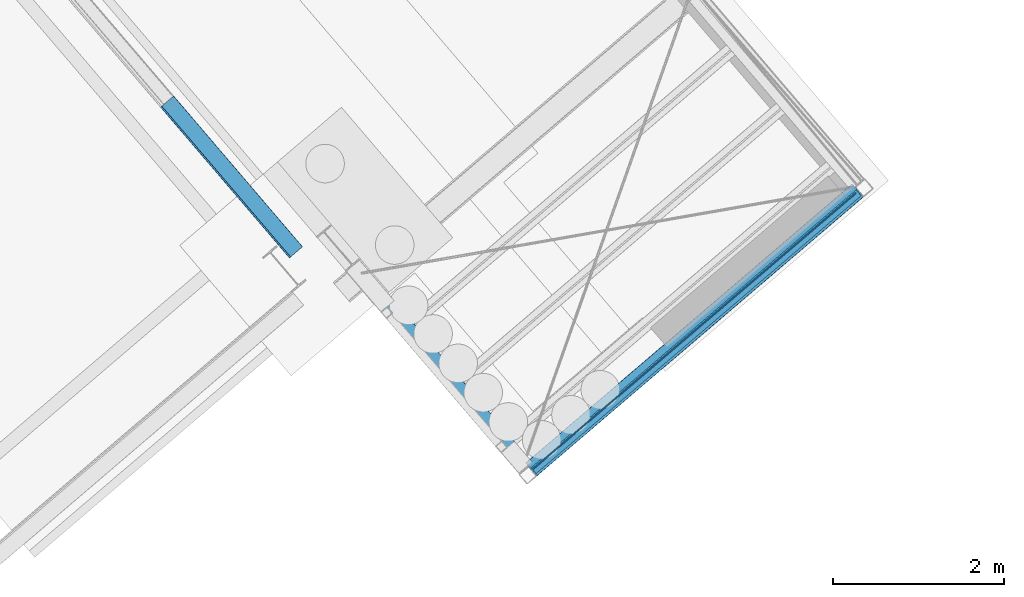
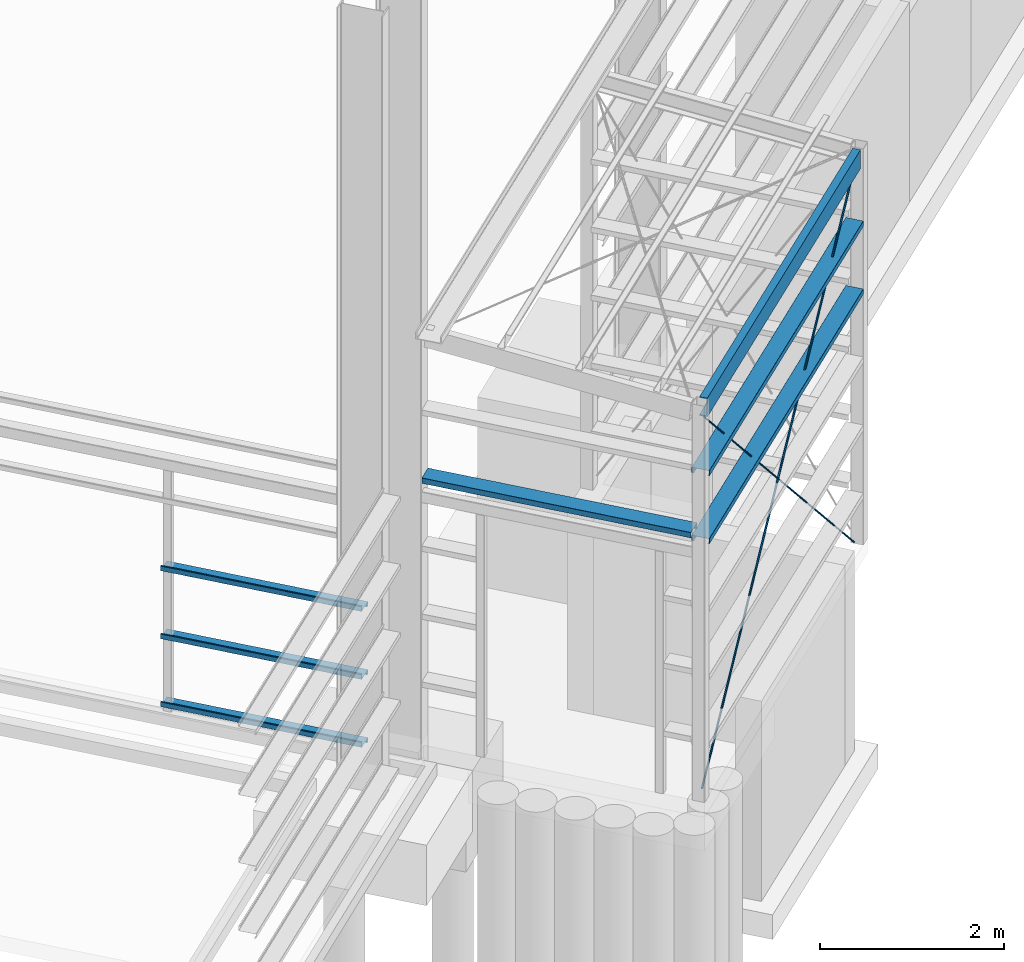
# One storey, part 20 of 41: 7 beams, 2 members, 1 element without a shape of its own.
"""IFC2X3 building model written with IfcOpenShell, lengths in millimetres."""

from ifc_helpers import new_model, entity, si_unit, converted_unit, derived_unit, direction, frame, frame_2d, origin, place, context, subcontext, project, spatial, polyline, circle_curve, parameter, trimmed, segment, composite_curve, circle, outline, extrude, source, transform, mapped, material, type_object, type_shapes, element, aggregate, save


model = new_model("IFC2X3")

# Units and contexts
model_context = context("Model", 3, precision=0.01, world=origin(), true_north=direction((6.123031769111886e-17, 1.0)))
body_context = subcontext(model_context, "Body", "Model", "MODEL_VIEW")
ifc_project = project(units=[si_unit("LENGTHUNIT", "METRE", prefix="MILLI"), si_unit("AREAUNIT", "SQUARE_METRE"), si_unit("VOLUMEUNIT", "CUBIC_METRE"), converted_unit("PLANEANGLEUNIT", "DEGREE", entity("IfcRatioMeasure", 0.017453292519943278), si_unit("PLANEANGLEUNIT", "RADIAN"), dimensions=[0, 0, 0, 0, 0, 0, 0]), si_unit("MASSUNIT", "GRAM", prefix="KILO"), derived_unit("MASSDENSITYUNIT", [(si_unit("MASSUNIT", "GRAM", prefix="KILO"), 1), (si_unit("LENGTHUNIT", "METRE"), -3)]), derived_unit("MOMENTOFINERTIAUNIT", [(si_unit("LENGTHUNIT", "METRE"), 4)]), si_unit("TIMEUNIT", "SECOND"), si_unit("FREQUENCYUNIT", "HERTZ"), si_unit("THERMODYNAMICTEMPERATUREUNIT", "DEGREE_CELSIUS"), derived_unit("THERMALTRANSMITTANCEUNIT", [(si_unit("MASSUNIT", "GRAM", prefix="KILO"), 1), (si_unit("THERMODYNAMICTEMPERATUREUNIT", "KELVIN"), -1), (si_unit("TIMEUNIT", "SECOND"), -3)]), derived_unit("VOLUMETRICFLOWRATEUNIT", [(si_unit("LENGTHUNIT", "METRE"), 3), (si_unit("TIMEUNIT", "SECOND"), -1)]), derived_unit("MASSFLOWRATEUNIT", [(si_unit("MASSUNIT", "GRAM", prefix="KILO"), 1), (si_unit("TIMEUNIT", "SECOND"), -1)]), derived_unit("ROTATIONALFREQUENCYUNIT", [(si_unit("TIMEUNIT", "SECOND"), -1)]), si_unit("ELECTRICCURRENTUNIT", "AMPERE"), si_unit("ELECTRICVOLTAGEUNIT", "VOLT"), si_unit("POWERUNIT", "WATT"), si_unit("FORCEUNIT", "NEWTON", prefix="KILO"), si_unit("ILLUMINANCEUNIT", "LUX"), si_unit("LUMINOUSFLUXUNIT", "LUMEN"), si_unit("LUMINOUSINTENSITYUNIT", "CANDELA"), derived_unit("USERDEFINED", [(si_unit("MASSUNIT", "GRAM", prefix="KILO"), -1), (si_unit("LENGTHUNIT", "METRE"), -2), (si_unit("TIMEUNIT", "SECOND"), 3), (si_unit("LUMINOUSFLUXUNIT", "LUMEN"), 1)]), derived_unit("SOUNDPOWERUNIT", [(si_unit("MASSUNIT", "GRAM", prefix="KILO"), 1), (si_unit("LENGTHUNIT", "METRE"), 2), (si_unit("TIMEUNIT", "SECOND"), -3)]), derived_unit("LINEARVELOCITYUNIT", [(si_unit("LENGTHUNIT", "METRE"), 1), (si_unit("TIMEUNIT", "SECOND"), -1)]), si_unit("PRESSUREUNIT", "PASCAL"), derived_unit("USERDEFINED", [(si_unit("LENGTHUNIT", "METRE"), -2), (si_unit("MASSUNIT", "GRAM", prefix="KILO"), 1), (si_unit("TIMEUNIT", "SECOND"), -2)]), derived_unit("LINEARFORCEUNIT", [(si_unit("MASSUNIT", "GRAM", prefix="KILO"), 1), (si_unit("LENGTHUNIT", "METRE"), 1), (si_unit("TIMEUNIT", "SECOND"), -2), (si_unit("LENGTHUNIT", "METRE"), -1)]), derived_unit("PLANARFORCEUNIT", [(si_unit("MASSUNIT", "GRAM", prefix="KILO"), 1), (si_unit("LENGTHUNIT", "METRE"), 1), (si_unit("TIMEUNIT", "SECOND"), -2), (si_unit("LENGTHUNIT", "METRE"), -2)])], contexts=[model_context])

# Site, building, storey
site_placement = place(None, frame((962.4174930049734, -6014.433753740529, 0.0), z_axis=(0.0, 0.0, 1.0), x_axis=(0.7601792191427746, 0.649713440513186, 0.0)))
site = spatial("IfcSite", under=ifc_project, at=site_placement, Name="Default", CompositionType="ELEMENT")
building_placement = place(site_placement, origin())
building = spatial("IfcBuilding", under=site, at=building_placement, CompositionType="ELEMENT")
storey_placement = place(building_placement, origin())
storey = spatial("IfcBuildingStorey", under=building, at=storey_placement, Name="Datum", CompositionType="ELEMENT", Elevation=0.0)

# Beams
ifc_material_1 = material(Name="Metal - Steel - 300 MPa")
beam_type_1 = type_object("IfcBeamType", Name="ADSK_UK_Light Gauge-Zeds-Purlin:Metsec-202Z14", PredefinedType="NOTDEFINED")
beam_1_placement = place(storey_placement, frame((154066.46020470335, -25607.42808212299, 1900.0), z_axis=(0.0, 0.0, 1.0), x_axis=(0.0, 1.0, 0.0)))
element("IfcBeam", 1, at=beam_1_placement, inside=storey, type_object=beam_type_1, material=ifc_material_1, Name="ADSK_UK_Light Gauge-Zeds-Purlin:Metsec-202Z14", ObjectType="ADSK_UK_Light Gauge-Zeds-Purlin:Metsec-202Z14", context=body_context, shape_type="SweptSolid", body=[
    extrude(outline(composite_curve([segment(polyline([(3.600000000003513, -101.20000000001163), (58.0, -101.20000000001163)]), True, "CONTINUOUS"), segment(trimmed(circle_curve(frame_2d((58.0, -98.40000000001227), x_axis=(0.0, -1.0)), 2.8000000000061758), [parameter(0.0)], [parameter(89.99999999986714)], True, "PARAMETER"), True, "CONTINUOUS"), segment(polyline([(60.80000000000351, -98.40000000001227), (60.799999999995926, -80.2000000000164)]), True, "CONTINUOUS"), segment(polyline([(60.80000000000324, -80.2000000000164), (59.3999999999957, -80.2000000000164)]), True, "CONTINUOUS"), segment(polyline([(59.40000000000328, -80.1999999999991), (59.3999999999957, -98.40000000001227)]), True, "CONTINUOUS"), segment(trimmed(circle_curve(frame_2d((58.0, -98.40000000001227), x_axis=(1.0, 0.0)), 1.3999999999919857), [parameter(269.9999999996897)], [parameter(0.0)], True, "PARAMETER"), False, "CONTINUOUS"), segment(polyline([(58.0, -99.80000000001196), (3.5999999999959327, -99.80000000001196)]), True, "CONTINUOUS"), segment(trimmed(circle_curve(frame_2d((3.599999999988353, -98.40000000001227), x_axis=(0.0, -1.0)), 1.3999999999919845), [parameter(269.9999999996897)], [parameter(0.0)], True, "PARAMETER"), False, "CONTINUOUS"), segment(polyline([(2.20000000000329, -98.39999999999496), (2.199999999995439, 98.0)]), True, "CONTINUOUS"), segment(trimmed(circle_curve(frame_2d((-0.600000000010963, 98.0), x_axis=(1.0, 0.0)), 2.8000000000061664), [parameter(0.0)], [parameter(89.99999999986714)], True, "PARAMETER"), True, "CONTINUOUS"), segment(polyline([(-0.5999999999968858, 100.79999999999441), (-60.0, 100.79999999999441)]), True, "CONTINUOUS"), segment(trimmed(circle_curve(frame_2d((-60.0, 98.0), x_axis=(0.0, 1.0)), 2.800000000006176), [parameter(0.0)], [parameter(89.99999999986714)], True, "PARAMETER"), True, "CONTINUOUS"), segment(polyline([(-62.79999999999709, 98.0), (-62.80000000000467, 81.79999999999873)]), True, "CONTINUOUS"), segment(polyline([(-62.79999999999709, 81.79999999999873), (-61.40000000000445, 81.79999999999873)]), True, "CONTINUOUS"), segment(polyline([(-61.399999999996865, 81.79999999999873), (-61.40000000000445, 98.0)]), True, "CONTINUOUS"), segment(trimmed(circle_curve(frame_2d((-60.0, 98.0), x_axis=(-1.0, 0.0)), 1.3999999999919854), [parameter(269.9999999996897)], [parameter(0.0)], True, "PARAMETER"), False, "CONTINUOUS"), segment(polyline([(-60.0, 99.39999999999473), (-0.6000000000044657, 99.39999999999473)]), True, "CONTINUOUS"), segment(trimmed(circle_curve(frame_2d((-0.5999999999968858, 98.0), x_axis=(0.0, 1.0)), 1.399999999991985), [parameter(269.9999999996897)], [parameter(0.0)], True, "PARAMETER"), False, "CONTINUOUS"), segment(polyline([(0.8000000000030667, 98.0), (0.7999999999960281, -98.40000000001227)]), True, "CONTINUOUS"), segment(trimmed(circle_curve(frame_2d((3.6000000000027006, -98.40000000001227), x_axis=(-1.0, 0.0)), 2.8000000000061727), [parameter(0.0)], [parameter(89.99999999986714)], True, "PARAMETER"), True, "CONTINUOUS")], self_intersect=False)), frame((43.0, -100.79999999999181, 0.6999999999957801), z_axis=(1.0, 0.0, 0.0), x_axis=(0.0, 0.0, -1.0)), (0.0, 0.0, 1.0), 2313.0000000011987),
])
beam_2_placement = place(storey_placement, frame((154066.46020470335, -25607.428082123, 1000.0), z_axis=(0.0, 0.0, 1.0), x_axis=(0.0, 1.0, 0.0)))
element("IfcBeam", 2, at=beam_2_placement, inside=storey, type_object=beam_type_1, material=ifc_material_1, Name="ADSK_UK_Light Gauge-Zeds-Purlin:Metsec-202Z14", ObjectType="ADSK_UK_Light Gauge-Zeds-Purlin:Metsec-202Z14", context=body_context, shape_type="SweptSolid", body=[
    extrude(outline(composite_curve([segment(polyline([(3.6000000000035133, -101.20000000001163), (58.0, -101.20000000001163)]), True, "CONTINUOUS"), segment(trimmed(circle_curve(frame_2d((58.0, -98.40000000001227), x_axis=(0.0, -1.0)), 2.800000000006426), [parameter(0.0)], [parameter(89.99999999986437)], True, "PARAMETER"), True, "CONTINUOUS"), segment(polyline([(60.80000000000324, -98.40000000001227), (60.799999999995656, -80.2000000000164)]), True, "CONTINUOUS"), segment(polyline([(60.80000000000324, -80.2000000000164), (59.3999999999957, -80.2000000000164)]), True, "CONTINUOUS"), segment(polyline([(59.400000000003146, -80.1999999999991), (59.3999999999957, -98.40000000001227)]), True, "CONTINUOUS"), segment(trimmed(circle_curve(frame_2d((58.0, -98.40000000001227), x_axis=(1.0, 0.0)), 1.399999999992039), [parameter(269.9999999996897)], [parameter(0.0)], True, "PARAMETER"), False, "CONTINUOUS"), segment(polyline([(58.0, -99.80000000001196), (3.5999999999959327, -99.80000000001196)]), True, "CONTINUOUS"), segment(trimmed(circle_curve(frame_2d((3.599999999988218, -98.40000000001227), x_axis=(0.0, -1.0)), 1.399999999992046), [parameter(269.9999999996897)], [parameter(0.0)], True, "PARAMETER"), False, "CONTINUOUS"), segment(polyline([(2.200000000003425, -98.39999999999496), (2.1999999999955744, 98.0)]), True, "CONTINUOUS"), segment(trimmed(circle_curve(frame_2d((-0.6000000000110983, 98.0), x_axis=(1.0, 0.0)), 2.8000000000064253), [parameter(0.0)], [parameter(89.99999999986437)], True, "PARAMETER"), True, "CONTINUOUS"), segment(polyline([(-0.5999999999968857, 100.79999999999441), (-60.0, 100.79999999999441)]), True, "CONTINUOUS"), segment(trimmed(circle_curve(frame_2d((-60.0, 98.0), x_axis=(0.0, 1.0)), 2.8000000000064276), [parameter(0.0)], [parameter(89.99999999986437)], True, "PARAMETER"), True, "CONTINUOUS"), segment(polyline([(-62.799999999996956, 98.0), (-62.8000000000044, 81.79999999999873)]), True, "CONTINUOUS"), segment(polyline([(-62.799999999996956, 81.79999999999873), (-61.40000000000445, 81.79999999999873)]), True, "CONTINUOUS"), segment(polyline([(-61.399999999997, 81.79999999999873), (-61.40000000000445, 98.0)]), True, "CONTINUOUS"), segment(trimmed(circle_curve(frame_2d((-60.0, 98.0), x_axis=(-1.0, 0.0)), 1.3999999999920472), [parameter(269.9999999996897)], [parameter(0.0)], True, "PARAMETER"), False, "CONTINUOUS"), segment(polyline([(-60.0, 99.39999999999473), (-0.6000000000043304, 99.39999999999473)]), True, "CONTINUOUS"), segment(trimmed(circle_curve(frame_2d((-0.5999999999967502, 98.0), x_axis=(0.0, 1.0)), 1.399999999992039), [parameter(269.9999999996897)], [parameter(0.0)], True, "PARAMETER"), False, "CONTINUOUS"), segment(polyline([(0.8000000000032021, 98.0), (0.7999999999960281, -98.40000000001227)]), True, "CONTINUOUS"), segment(trimmed(circle_curve(frame_2d((3.6000000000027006, -98.40000000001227), x_axis=(-1.0, 0.0)), 2.800000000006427), [parameter(0.0)], [parameter(89.99999999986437)], True, "PARAMETER"), True, "CONTINUOUS")], self_intersect=False)), frame((43.0, -100.79999999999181, 0.6999999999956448), z_axis=(1.0, 0.0, 0.0), x_axis=(0.0, 0.0, -1.0)), (0.0, 0.0, 1.0), 2313.0000000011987),
])
beam_3_placement = place(storey_placement, frame((154066.46020470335, -25607.428082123, 100.0), z_axis=(0.0, 0.0, 1.0), x_axis=(0.0, 1.0, 0.0)))
element("IfcBeam", 3, at=beam_3_placement, inside=storey, type_object=beam_type_1, material=ifc_material_1, Name="ADSK_UK_Light Gauge-Zeds-Purlin:Metsec-202Z14", ObjectType="ADSK_UK_Light Gauge-Zeds-Purlin:Metsec-202Z14", context=body_context, shape_type="SweptSolid", body=[
    extrude(outline(composite_curve([segment(polyline([(3.60000000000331, -101.20000000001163), (58.0, -101.20000000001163)]), True, "CONTINUOUS"), segment(trimmed(circle_curve(frame_2d((58.0, -98.40000000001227), x_axis=(0.0, -1.0)), 2.8000000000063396), [parameter(0.0)], [parameter(89.99999999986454)], True, "PARAMETER"), True, "CONTINUOUS"), segment(polyline([(60.80000000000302, -98.40000000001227), (60.79999999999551, -80.2000000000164)]), True, "CONTINUOUS"), segment(polyline([(60.80000000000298, -80.2000000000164), (59.3999999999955, -80.2000000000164)]), True, "CONTINUOUS"), segment(polyline([(59.40000000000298, -80.1999999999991), (59.399999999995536, -98.40000000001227)]), True, "CONTINUOUS"), segment(trimmed(circle_curve(frame_2d((58.0, -98.40000000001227), x_axis=(1.0, 0.0)), 1.3999999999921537), [parameter(269.9999999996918)], [parameter(0.0)], True, "PARAMETER"), False, "CONTINUOUS"), segment(polyline([(58.0, -99.80000000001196), (3.599999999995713, -99.80000000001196)]), True, "CONTINUOUS"), segment(trimmed(circle_curve(frame_2d((3.5999999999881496, -98.40000000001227), x_axis=(0.0, -1.0)), 1.3999999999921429), [parameter(269.99999999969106)], [parameter(0.0)], True, "PARAMETER"), False, "CONTINUOUS"), segment(polyline([(2.2000000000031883, -98.39999999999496), (2.1999999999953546, 98.0)]), True, "CONTINUOUS"), segment(trimmed(circle_curve(frame_2d((-0.6000000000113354, 98.0), x_axis=(1.0, 0.0)), 2.8000000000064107), [parameter(0.0)], [parameter(89.99999999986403)], True, "PARAMETER"), True, "CONTINUOUS"), segment(polyline([(-0.5999999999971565, 100.79999999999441), (-60.0, 100.79999999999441)]), True, "CONTINUOUS"), segment(trimmed(circle_curve(frame_2d((-60.0, 98.0), x_axis=(0.0, 1.0)), 2.80000000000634), [parameter(0.0)], [parameter(89.99999999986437)], True, "PARAMETER"), True, "CONTINUOUS"), segment(polyline([(-62.79999999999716, 98.0), (-62.80000000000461, 81.79999999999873)]), True, "CONTINUOUS"), segment(polyline([(-62.799999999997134, 81.79999999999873), (-61.400000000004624, 81.79999999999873)]), True, "CONTINUOUS"), segment(polyline([(-61.39999999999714, 81.79999999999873), (-61.40000000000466, 98.0)]), True, "CONTINUOUS"), segment(trimmed(circle_curve(frame_2d((-60.0, 98.0), x_axis=(-1.0, 0.0)), 1.3999999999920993), [parameter(269.9999999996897)], [parameter(0.0)], True, "PARAMETER"), False, "CONTINUOUS"), segment(polyline([(-60.0, 99.39999999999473), (-0.6000000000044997, 99.39999999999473)]), True, "CONTINUOUS"), segment(trimmed(circle_curve(frame_2d((-0.5999999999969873, 98.0), x_axis=(0.0, 1.0)), 1.399999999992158), [parameter(269.9999999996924)], [parameter(0.0)], True, "PARAMETER"), False, "CONTINUOUS"), segment(polyline([(0.8000000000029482, 98.0), (0.799999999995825, -98.40000000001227)]), True, "CONTINUOUS"), segment(trimmed(circle_curve(frame_2d((3.600000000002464, -98.40000000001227), x_axis=(-1.0, 0.0)), 2.800000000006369), [parameter(0.0)], [parameter(89.99999999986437)], True, "PARAMETER"), True, "CONTINUOUS")], self_intersect=False)), frame((43.0, -100.79999999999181, 0.6999999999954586), z_axis=(1.0, 0.0, 0.0), x_axis=(0.0, 0.0, -1.0)), (0.0, 0.0, 1.0), 2313.0000000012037),
])
ifc_material_2 = material(Name="Metal - Light Gauge Painted")
beam_type_2 = type_object("IfcBeamType", Name="ADSK_AU_PFC-Parallel Flange Channels (AS 3679_1):250PFC", PredefinedType="NOTDEFINED")
beam_4_placement = place(building_placement, frame((154533.1729934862, -29316.47968559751, 5240.0)))
element("IfcBeam", 4, at=beam_4_placement, inside=storey, type_object=beam_type_2, material=ifc_material_2, Name="ADSK_AU_PFC-Parallel Flange Channels (AS 3679_1):250PFC", ObjectType="ADSK_AU_PFC-Parallel Flange Channels (AS 3679_1):250PFC", context=body_context, shape_type="SweptSolid", body=[
    extrude(outline(composite_curve([segment(polyline([(-125.0, -41.599999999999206), (125.0, -41.599999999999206)]), True, "CONTINUOUS"), segment(polyline([(125.0, -41.59999999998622), (125.0, 48.399999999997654)]), True, "CONTINUOUS"), segment(polyline([(125.0, 48.40000000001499), (110.0, 48.399999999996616)]), True, "CONTINUOUS"), segment(polyline([(110.0, 48.400000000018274), (110.0, -21.60000000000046)]), True, "CONTINUOUS"), segment(trimmed(circle_curve(frame_2d((98.0, -21.59999999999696), x_axis=(1.0, 0.0)), 12.000000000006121), [parameter(270.00000000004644)], [parameter(0.0)], True, "PARAMETER"), False, "CONTINUOUS"), segment(polyline([(98.0, -33.59999999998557), (-98.0, -33.60000000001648)]), True, "CONTINUOUS"), segment(trimmed(circle_curve(frame_2d((-98.0, -21.600000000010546), x_axis=(0.0, -1.0)), 12.000000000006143), [parameter(270.00000000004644)], [parameter(0.0)], True, "PARAMETER"), False, "CONTINUOUS"), segment(polyline([(-110.0, -21.600000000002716), (-110.0, 48.39999999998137)]), True, "CONTINUOUS"), segment(polyline([(-110.0, 48.399999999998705), (-125.0, 48.39999999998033)]), True, "CONTINUOUS"), segment(polyline([(-125.0, 48.40000000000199), (-125.0, -41.60000000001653)]), True, "CONTINUOUS")], self_intersect=False)), frame((87.700000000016, 13.0, -125.0), z_axis=(1.0, 0.0, 0.0), x_axis=(0.0, 0.0, -1.0)), (0.0, 0.0, 1.0), 4985.300000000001),
])

# Members
ifc_material_3 = material(Name="<Unnamed>")
member_type_1 = type_object("IfcMemberType", Name="ADSK_AU_Round Bars (AS 3679_1):20ROD", PredefinedType="BRACE", material=ifc_material_3)
shared_shape_1 = source(origin(), body_context, "Body", "SweptSolid", [
    extrude(circle(Radius=10.000000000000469, at=frame_2d((1.5573836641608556e-26, 1.67417529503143e-14), x_axis=(1.0, 0.0))), frame((-3474.2297002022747, 0.0, 0.0), z_axis=(1.0, 0.0, 0.0), x_axis=(0.0, -1.0, 0.0)), (0.0, 0.0, 1.0), 6892.769096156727),
])
type_shapes(member_type_1, [shared_shape_1])
member_1_placement = place(storey_placement, frame((157159.23638238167, -29280.42808212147, 2467.323020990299), z_axis=(0.7071067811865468, 0.0, 0.7071067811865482), x_axis=(0.7071067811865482, 0.0, -0.7071067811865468)))
element("IfcMember", 5, at=member_1_placement, inside=storey, type_object=member_type_1, material=ifc_material_3, Name="ADSK_AU_Round Bars (AS 3679_1):20ROD", ObjectType="ADSK_AU_Round Bars (AS 3679_1):20ROD", context=body_context, shape_type="MappedRepresentation", body=[
    mapped(shared_shape_1, transform((0.0, 0.0, 0.0), scale=1.0)),
])
member_type_2 = type_object("IfcMemberType", Name="ADSK_AU_Round Bars (AS 3679_1):20ROD", PredefinedType="BRACE", material=ifc_material_3)
shared_shape_2 = source(origin(), body_context, "Body", "SweptSolid", [
    extrude(circle(Radius=10.000000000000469, at=frame_2d((9.640466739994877e-26, 1.9842909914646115e-14), x_axis=(1.0, 0.0))), frame((-3474.2297002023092, 0.0, 0.0), z_axis=(1.0, 0.0, 0.0), x_axis=(0.0, -1.0, 0.0)), (0.0, 0.0, 1.0), 6892.769096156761),
])
type_shapes(member_type_2, [shared_shape_2])
member_2_placement = place(storey_placement, frame((157046.38081292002, -29280.42808212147, 2467.323020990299), z_axis=(-0.7071067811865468, 0.0, 0.7071067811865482), x_axis=(-0.7071067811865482, 0.0, -0.7071067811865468)))
element("IfcMember", 6, at=member_2_placement, inside=storey, type_object=member_type_2, material=ifc_material_3, Name="ADSK_AU_Round Bars (AS 3679_1):20ROD", ObjectType="ADSK_AU_Round Bars (AS 3679_1):20ROD", context=body_context, shape_type="MappedRepresentation", body=[
    mapped(shared_shape_2, transform((0.0, 0.0, 0.0), scale=1.0)),
])

# Assembly, beams
assembly_placement = place(building_placement, origin())
assembly = element("IfcElementAssembly", 7, at=assembly_placement, inside=storey, Name="Structural Beam System:Structural Beam System 1", ObjectType="Structural Beam System:Structural Beam System 1", AssemblyPlace="NOTDEFINED", PredefinedType="BEAM_GRID")
ifc_material_4 = material(Name="Metal - Light Gauge")
beam_type_3 = type_object("IfcBeamType", Name="ADSK_AUS_Light Gauge-Joists:C20019", PredefinedType="NOTDEFINED")
beam_5_placement = place(building_placement, frame((159618.96020470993, -29170.42808212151, 4295.0), z_axis=(0.0, 0.0, 1.0), x_axis=(-1.0, 0.0, 0.0)))
beam_5 = element("IfcBeam", 8, at=beam_5_placement, type_object=beam_type_3, material=ifc_material_4, Name="ADSK_AUS_Light Gauge-Joists:C20019", ObjectType="ADSK_AUS_Light Gauge-Joists:C20019", context=body_context, shape_type="SweptSolid", body=[
    extrude(outline(composite_curve([segment(polyline([(-40.55184993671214, -101.49999999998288), (26.331849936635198, -101.49999999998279)]), True, "CONTINUOUS"), segment(trimmed(circle_curve(frame_2d((26.33184993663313, -98.4418499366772), x_axis=(0.0, -1.0)), 3.058150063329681), [parameter(0.0)], [parameter(89.99999999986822)], True, "PARAMETER"), True, "CONTINUOUS"), segment(polyline([(29.389999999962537, -98.44184993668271), (29.389999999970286, -78.49999999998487)]), True, "CONTINUOUS"), segment(polyline([(29.389999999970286, -78.50000000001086), (27.48999999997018, -78.49999999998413)]), True, "CONTINUOUS"), segment(polyline([(27.48999999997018, -78.50000000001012), (27.489999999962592, -98.02934993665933)]), True, "CONTINUOUS"), segment(trimmed(circle_curve(frame_2d((25.91934993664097, -98.02934993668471), x_axis=(1.0, 0.0)), 1.5706500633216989), [parameter(269.99999999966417)], [parameter(0.0)], True, "PARAMETER"), False, "CONTINUOUS"), segment(polyline([(25.919349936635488, -99.60000000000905), (-40.13934993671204, -99.59999999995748)]), True, "CONTINUOUS"), segment(trimmed(circle_curve(frame_2d((-40.13934993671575, -98.02934993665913), x_axis=(0.0, -1.0)), 1.570650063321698), [parameter(269.99999999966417)], [parameter(0.0)], True, "PARAMETER"), False, "CONTINUOUS"), segment(polyline([(-41.710000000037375, -98.02934993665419), (-41.70999999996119, 98.02934993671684)]), True, "CONTINUOUS"), segment(trimmed(circle_curve(frame_2d((-40.13934993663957, 98.02934993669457), x_axis=(-1.0, 0.0)), 1.5706500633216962), [parameter(269.99999999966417)], [parameter(0.0)], True, "PARAMETER"), False, "CONTINUOUS"), segment(polyline([(-40.13934993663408, 99.60000000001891), (25.919349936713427, 99.6000000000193)]), True, "CONTINUOUS"), segment(trimmed(circle_curve(frame_2d((25.919349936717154, 98.02934993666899), x_axis=(0.0, 1.0)), 1.570650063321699), [parameter(269.99999999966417)], [parameter(0.0)], True, "PARAMETER"), False, "CONTINUOUS"), segment(polyline([(27.490000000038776, 98.02934993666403), (27.490000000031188, 78.50000000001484)]), True, "CONTINUOUS"), segment(polyline([(27.490000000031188, 78.49999999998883), (29.390000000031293, 78.5000000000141)]), True, "CONTINUOUS"), segment(polyline([(29.390000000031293, 78.49999999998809), (29.39000000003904, 98.44184993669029)]), True, "CONTINUOUS"), segment(trimmed(circle_curve(frame_2d((26.331849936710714, 98.44184993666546), x_axis=(1.0, 0.0)), 3.058150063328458), [parameter(0.0)], [parameter(89.99999999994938)], True, "PARAMETER"), True, "CONTINUOUS"), segment(polyline([(26.331849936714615, 101.49999999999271), (-40.551849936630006, 101.50000000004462)]), True, "CONTINUOUS"), segment(trimmed(circle_curve(frame_2d((-40.55184993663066, 98.44184993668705), x_axis=(0.0, 1.0)), 3.0581500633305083), [parameter(0.0)], [parameter(89.99999999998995)], True, "PARAMETER"), True, "CONTINUOUS"), segment(polyline([(-43.60999999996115, 98.44184993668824), (-43.610000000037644, -98.44184993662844)]), True, "CONTINUOUS"), segment(trimmed(circle_curve(frame_2d((-40.55184993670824, -98.4418499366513), x_axis=(-1.0, 0.0)), 3.058150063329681), [parameter(0.0)], [parameter(89.99999999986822)], True, "PARAMETER"), True, "CONTINUOUS")], self_intersect=False)), frame((0.42499999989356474, 101.49999999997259, -43.609999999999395), z_axis=(1.0, 0.0, 0.0), x_axis=(0.0, 0.0, -1.0)), (0.0, 0.0, 1.0), 5010.0000000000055),
])
beam_6_placement = place(building_placement, frame((159618.96020470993, -29170.42808212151, 3395.0), z_axis=(0.0, 0.0, 1.0), x_axis=(-1.0, 0.0, 0.0)))
beam_6 = element("IfcBeam", 9, at=beam_6_placement, type_object=beam_type_3, material=ifc_material_4, Name="ADSK_AUS_Light Gauge-Joists:C20019", ObjectType="ADSK_AUS_Light Gauge-Joists:C20019", context=body_context, shape_type="SweptSolid", body=[
    extrude(outline(composite_curve([segment(polyline([(-40.55184993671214, -101.49999999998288), (26.331849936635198, -101.49999999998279)]), True, "CONTINUOUS"), segment(trimmed(circle_curve(frame_2d((26.33184993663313, -98.4418499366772), x_axis=(0.0, -1.0)), 3.058150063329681), [parameter(0.0)], [parameter(89.99999999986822)], True, "PARAMETER"), True, "CONTINUOUS"), segment(polyline([(29.389999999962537, -98.44184993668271), (29.389999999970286, -78.49999999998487)]), True, "CONTINUOUS"), segment(polyline([(29.389999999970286, -78.50000000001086), (27.48999999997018, -78.49999999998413)]), True, "CONTINUOUS"), segment(polyline([(27.48999999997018, -78.50000000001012), (27.489999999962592, -98.02934993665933)]), True, "CONTINUOUS"), segment(trimmed(circle_curve(frame_2d((25.91934993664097, -98.02934993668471), x_axis=(1.0, 0.0)), 1.5706500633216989), [parameter(269.99999999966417)], [parameter(0.0)], True, "PARAMETER"), False, "CONTINUOUS"), segment(polyline([(25.919349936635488, -99.60000000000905), (-40.13934993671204, -99.59999999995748)]), True, "CONTINUOUS"), segment(trimmed(circle_curve(frame_2d((-40.13934993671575, -98.02934993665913), x_axis=(0.0, -1.0)), 1.570650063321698), [parameter(269.99999999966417)], [parameter(0.0)], True, "PARAMETER"), False, "CONTINUOUS"), segment(polyline([(-41.710000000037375, -98.02934993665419), (-41.70999999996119, 98.02934993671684)]), True, "CONTINUOUS"), segment(trimmed(circle_curve(frame_2d((-40.13934993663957, 98.02934993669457), x_axis=(-1.0, 0.0)), 1.5706500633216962), [parameter(269.99999999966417)], [parameter(0.0)], True, "PARAMETER"), False, "CONTINUOUS"), segment(polyline([(-40.13934993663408, 99.60000000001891), (25.919349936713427, 99.6000000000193)]), True, "CONTINUOUS"), segment(trimmed(circle_curve(frame_2d((25.919349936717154, 98.02934993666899), x_axis=(0.0, 1.0)), 1.570650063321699), [parameter(269.99999999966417)], [parameter(0.0)], True, "PARAMETER"), False, "CONTINUOUS"), segment(polyline([(27.490000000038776, 98.02934993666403), (27.490000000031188, 78.50000000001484)]), True, "CONTINUOUS"), segment(polyline([(27.490000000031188, 78.49999999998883), (29.390000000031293, 78.5000000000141)]), True, "CONTINUOUS"), segment(polyline([(29.390000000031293, 78.49999999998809), (29.39000000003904, 98.44184993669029)]), True, "CONTINUOUS"), segment(trimmed(circle_curve(frame_2d((26.331849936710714, 98.44184993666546), x_axis=(1.0, 0.0)), 3.058150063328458), [parameter(0.0)], [parameter(89.99999999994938)], True, "PARAMETER"), True, "CONTINUOUS"), segment(polyline([(26.331849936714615, 101.49999999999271), (-40.551849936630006, 101.50000000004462)]), True, "CONTINUOUS"), segment(trimmed(circle_curve(frame_2d((-40.55184993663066, 98.44184993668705), x_axis=(0.0, 1.0)), 3.0581500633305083), [parameter(0.0)], [parameter(89.99999999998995)], True, "PARAMETER"), True, "CONTINUOUS"), segment(polyline([(-43.60999999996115, 98.44184993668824), (-43.610000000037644, -98.44184993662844)]), True, "CONTINUOUS"), segment(trimmed(circle_curve(frame_2d((-40.55184993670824, -98.4418499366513), x_axis=(-1.0, 0.0)), 3.058150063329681), [parameter(0.0)], [parameter(89.99999999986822)], True, "PARAMETER"), True, "CONTINUOUS")], self_intersect=False)), frame((0.42499999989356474, 101.49999999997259, -43.609999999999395), z_axis=(1.0, 0.0, 0.0), x_axis=(0.0, 0.0, -1.0)), (0.0, 0.0, 1.0), 5010.0000000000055),
])
aggregate(assembly, [beam_5, beam_6])

# Beam
beam_7_placement = place(building_placement, frame((154469.96020470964, -26123.428082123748, 3529.929873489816), z_axis=(0.0, 0.0, 1.0), x_axis=(0.0, -1.0, 0.0)))
element("IfcBeam", 10, at=beam_7_placement, inside=storey, type_object=beam_type_3, material=ifc_material_4, Name="ADSK_AUS_Light Gauge-Joists:C20019", ObjectType="ADSK_AUS_Light Gauge-Joists:C20019", context=body_context, shape_type="SweptSolid", body=[
    extrude(outline(composite_curve([segment(polyline([(-40.55184993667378, -101.50000000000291), (26.33184993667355, -101.50000000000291)]), True, "CONTINUOUS"), segment(trimmed(circle_curve(frame_2d((26.331849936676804, -98.44184993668), x_axis=(0.0, -1.0)), 3.058150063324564), [parameter(0.0)], [parameter(90.00000000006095)], True, "PARAMETER"), True, "CONTINUOUS"), segment(polyline([(29.389999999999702, -98.44184993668), (29.389999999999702, -78.50000000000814)]), True, "CONTINUOUS"), segment(polyline([(29.389999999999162, -78.49999999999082), (27.489999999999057, -78.49999999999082)]), True, "CONTINUOUS"), segment(polyline([(27.489999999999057, -78.49999999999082), (27.489999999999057, -98.02934993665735)]), True, "CONTINUOUS"), segment(trimmed(circle_curve(frame_2d((25.919349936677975, -98.02934993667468), x_axis=(1.0, 0.0)), 1.5706500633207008), [parameter(269.99999999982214)], [parameter(0.0)], True, "PARAMETER"), False, "CONTINUOUS"), segment(polyline([(25.9193499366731, -99.59999999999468), (-40.139349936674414, -99.59999999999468)]), True, "CONTINUOUS"), segment(trimmed(circle_curve(frame_2d((-40.13934993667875, -98.02934993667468), x_axis=(0.0, -1.0)), 1.5706500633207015), [parameter(269.99999999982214)], [parameter(0.0)], True, "PARAMETER"), False, "CONTINUOUS"), segment(polyline([(-41.71000000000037, -98.02934993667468), (-41.71000000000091, 98.02934993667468)]), True, "CONTINUOUS"), segment(trimmed(circle_curve(frame_2d((-40.13934993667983, 98.02934993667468), x_axis=(-1.0, 0.0)), 1.5706500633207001), [parameter(269.99999999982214)], [parameter(0.0)], True, "PARAMETER"), False, "CONTINUOUS"), segment(polyline([(-40.13934993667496, 99.5999999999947), (25.91934993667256, 99.5999999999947)]), True, "CONTINUOUS"), segment(trimmed(circle_curve(frame_2d((25.919349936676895, 98.02934993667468), x_axis=(0.0, 1.0)), 1.5706500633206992), [parameter(269.99999999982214)], [parameter(0.0)], True, "PARAMETER"), False, "CONTINUOUS"), segment(polyline([(27.489999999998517, 98.02934993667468), (27.489999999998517, 78.50000000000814)]), True, "CONTINUOUS"), segment(polyline([(27.489999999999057, 78.50000000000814), (29.389999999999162, 78.50000000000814)]), True, "CONTINUOUS"), segment(polyline([(29.389999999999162, 78.50000000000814), (29.389999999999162, 98.44184993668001)]), True, "CONTINUOUS"), segment(trimmed(circle_curve(frame_2d((26.33184993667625, 98.44184993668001), x_axis=(1.0, 0.0)), 3.058150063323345), [parameter(0.0)], [parameter(90.00000000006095)], True, "PARAMETER"), True, "CONTINUOUS"), segment(polyline([(26.33184993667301, 101.50000000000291), (-40.551849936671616, 101.50000000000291)]), True, "CONTINUOUS"), segment(trimmed(circle_curve(frame_2d((-40.55184993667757, 98.44184993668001), x_axis=(0.0, 1.0)), 3.05815006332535), [parameter(0.0)], [parameter(90.00000000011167)], True, "PARAMETER"), True, "CONTINUOUS"), segment(polyline([(-43.61000000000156, 98.44184993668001), (-43.61000000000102, -98.44184993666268)]), True, "CONTINUOUS"), segment(trimmed(circle_curve(frame_2d((-40.55184993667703, -98.44184993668), x_axis=(-1.0, 0.0)), 3.0581500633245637), [parameter(0.0)], [parameter(90.00000000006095)], True, "PARAMETER"), True, "CONTINUOUS")], self_intersect=False)), frame((-10.0, 101.50000000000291, -43.61000000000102), z_axis=(1.0, 0.0, 0.0), x_axis=(0.0, 0.0, -1.0)), (0.0, 0.0, 1.0), 3097.000000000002),
])

save(model, "model.ifc")
